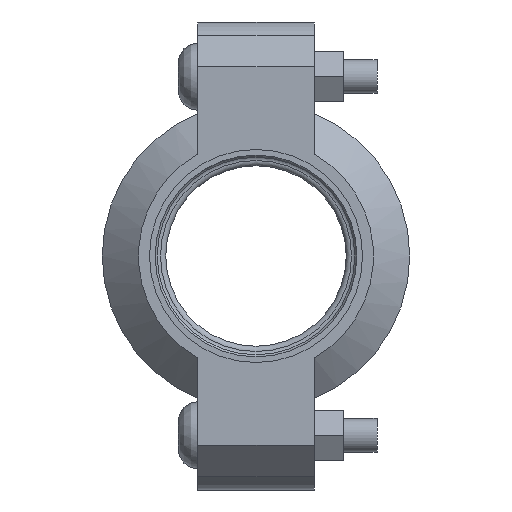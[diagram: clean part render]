
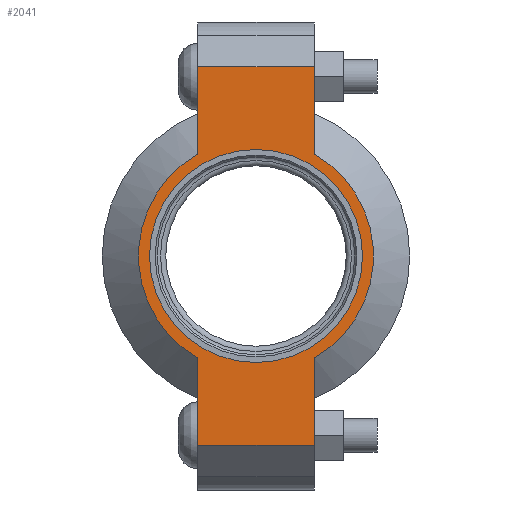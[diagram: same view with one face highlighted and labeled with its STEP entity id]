
A CAD part, left-side view. The second image highlights one B-rep face of the part: STEP entity #2041.
In plain terms, the highlighted planar face has unit normal (-1, 0, 0) as drawn and (0, 0, 1) by its records, which use the part's own axes.
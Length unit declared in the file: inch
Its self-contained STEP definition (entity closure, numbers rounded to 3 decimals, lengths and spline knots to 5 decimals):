
#174=LINE('',#3640,#273);
#182=LINE('',#3676,#281);
#189=LINE('',#3697,#288);
#198=LINE('',#3729,#297);
#199=LINE('',#3733,#298);
#200=LINE('',#3735,#299);
#273=VECTOR('',#2982,0.3937);
#281=VECTOR('',#2998,0.3937);
#288=VECTOR('',#3017,0.3937);
#297=VECTOR('',#3042,0.3937);
#298=VECTOR('',#3047,0.3937);
#299=VECTOR('',#3048,0.3937);
#359=FACE_BOUND('',#629,.T.);
#405=PLANE('',#2406);
#501=FACE_OUTER_BOUND('',#628,.T.);
#628=EDGE_LOOP('',(#1770,#1771,#1772,#1773,#1774,#1775,#1776,#1777));
#629=EDGE_LOOP('',(#1778));
#776=CIRCLE('',#2348,1.1875);
#802=CIRCLE('',#2407,1.31);
#803=CIRCLE('',#2408,1.31);
#927=VERTEX_POINT('',#3456);
#970=VERTEX_POINT('',#3637);
#971=VERTEX_POINT('',#3639);
#982=VERTEX_POINT('',#3671);
#983=VERTEX_POINT('',#3675);
#990=VERTEX_POINT('',#3694);
#991=VERTEX_POINT('',#3696);
#1001=VERTEX_POINT('',#3732);
#1002=VERTEX_POINT('',#3734);
#1164=EDGE_CURVE('',#927,#927,#776,.T.);
#1225=EDGE_CURVE('',#971,#970,#174,.T.);
#1239=EDGE_CURVE('',#983,#982,#182,.T.);
#1249=EDGE_CURVE('',#991,#990,#189,.T.);
#1264=EDGE_CURVE('',#983,#970,#198,.T.);
#1265=EDGE_CURVE('',#982,#991,#802,.T.);
#1266=EDGE_CURVE('',#1001,#990,#199,.T.);
#1267=EDGE_CURVE('',#1001,#1002,#200,.T.);
#1268=EDGE_CURVE('',#1002,#971,#803,.T.);
#1770=ORIENTED_EDGE('',*,*,#1264,.F.);
#1771=ORIENTED_EDGE('',*,*,#1239,.T.);
#1772=ORIENTED_EDGE('',*,*,#1265,.T.);
#1773=ORIENTED_EDGE('',*,*,#1249,.T.);
#1774=ORIENTED_EDGE('',*,*,#1266,.F.);
#1775=ORIENTED_EDGE('',*,*,#1267,.T.);
#1776=ORIENTED_EDGE('',*,*,#1268,.T.);
#1777=ORIENTED_EDGE('',*,*,#1225,.T.);
#1778=ORIENTED_EDGE('',*,*,#1164,.T.);
#2041=ADVANCED_FACE('',(#501,#359),#405,.T.);
#2348=AXIS2_PLACEMENT_3D('',#3458,#2858,#2859);
#2406=AXIS2_PLACEMENT_3D('',#3730,#3043,#3044);
#2407=AXIS2_PLACEMENT_3D('',#3731,#3045,#3046);
#2408=AXIS2_PLACEMENT_3D('',#3736,#3049,#3050);
#2858=DIRECTION('center_axis',(0.,0.,-1.));
#2859=DIRECTION('ref_axis',(1.,0.,0.));
#2982=DIRECTION('',(1.,0.,0.));
#2998=DIRECTION('',(-1.,0.,0.));
#3017=DIRECTION('',(-1.,0.,0.));
#3042=DIRECTION('',(0.,-1.,0.));
#3043=DIRECTION('center_axis',(0.,0.,1.));
#3044=DIRECTION('ref_axis',(-1.,0.,0.));
#3045=DIRECTION('center_axis',(0.,0.,1.));
#3046=DIRECTION('ref_axis',(1.,0.,0.));
#3047=DIRECTION('',(0.,1.,0.));
#3048=DIRECTION('',(1.,0.,0.));
#3049=DIRECTION('center_axis',(0.,0.,1.));
#3050=DIRECTION('ref_axis',(1.,0.,0.));
#3456=CARTESIAN_POINT('',(-1.1875,0.,0.94));
#3458=CARTESIAN_POINT('Origin',(0.,0.,0.94));
#3637=CARTESIAN_POINT('',(2.11,-0.65,0.94));
#3639=CARTESIAN_POINT('',(1.13737,-0.65,0.94));
#3640=CARTESIAN_POINT('',(2.61,-0.65,0.94));
#3671=CARTESIAN_POINT('',(1.13737,0.65,0.94));
#3675=CARTESIAN_POINT('',(2.11,0.65,0.94));
#3676=CARTESIAN_POINT('',(-2.61,0.65,0.94));
#3694=CARTESIAN_POINT('',(-2.11,0.65,0.94));
#3696=CARTESIAN_POINT('',(-1.13737,0.65,0.94));
#3697=CARTESIAN_POINT('',(-2.61,0.65,0.94));
#3729=CARTESIAN_POINT('',(2.11,-0.325,0.94));
#3730=CARTESIAN_POINT('Origin',(0.,0.,
0.94));
#3731=CARTESIAN_POINT('Origin',(0.,0.,0.94));
#3732=CARTESIAN_POINT('',(-2.11,-0.65,0.94));
#3733=CARTESIAN_POINT('',(-2.11,0.325,0.94));
#3734=CARTESIAN_POINT('',(-1.13737,-0.65,0.94));
#3735=CARTESIAN_POINT('',(2.61,-0.65,0.94));
#3736=CARTESIAN_POINT('Origin',(0.,0.,0.94));
